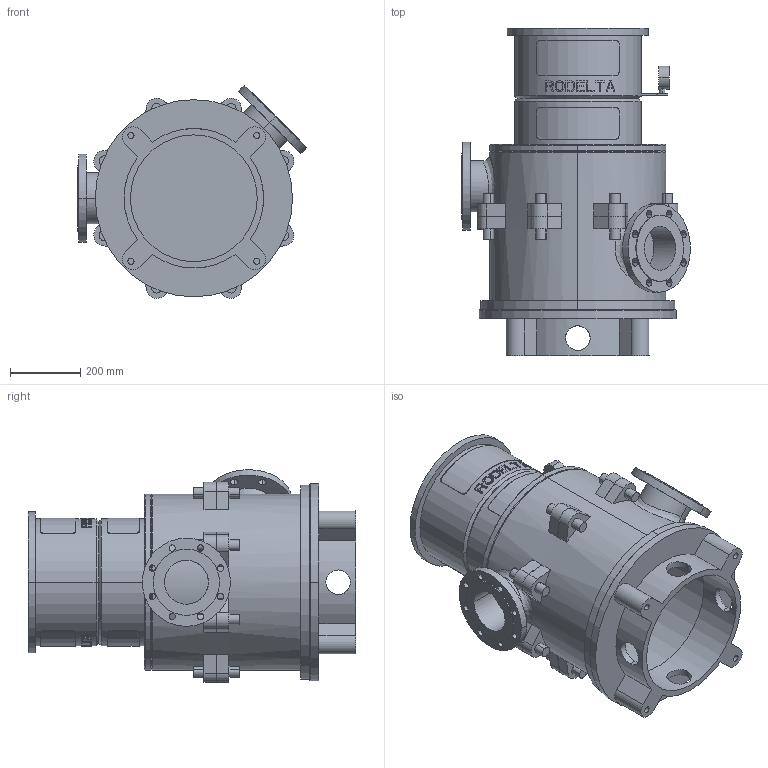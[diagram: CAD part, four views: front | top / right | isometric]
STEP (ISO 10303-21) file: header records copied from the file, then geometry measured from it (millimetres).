
FILE_DESCRIPTION((''),'2;1');
FILE_NAME('LS5_1TR_0GR_TOT_30KW','2023-08-08T',('Lyritlocal'),(''),'PRO/ENGINEER BY PARAMETRIC TECHNOLOGY CORPORATION, 2016360','PRO/ENGINEER BY PARAMETRIC TECHNOLOGY CORPORATION, 2016360','');
FILE_SCHEMA(('CONFIG_CONTROL_DESIGN'));
Length unit declared in the file: millimetre
Products named in the file (1): LS5_1TR_0GR_TOT_30KW
Bounding box: 649.61 x 930 x 603.65 mm (x, y, z)
Volume: 29690160.7 mm3; surface area: 3959001.8 mm2
Topology: 3 solids, 7 shells, 672 faces, 1747 edges, 1158 vertices
Faces by surface type: plane 414, cylinder 242, cone 12, bspline 4
Entity records: 22062 total; most frequent: CARTESIAN_POINT 5618, ORIENTED_EDGE 3478, DIRECTION 3269, EDGE_CURVE 1747, AXIS2_PLACEMENT_3D 1241, VERTEX_POINT 1158, EDGE_LOOP 809, VECTOR 787
